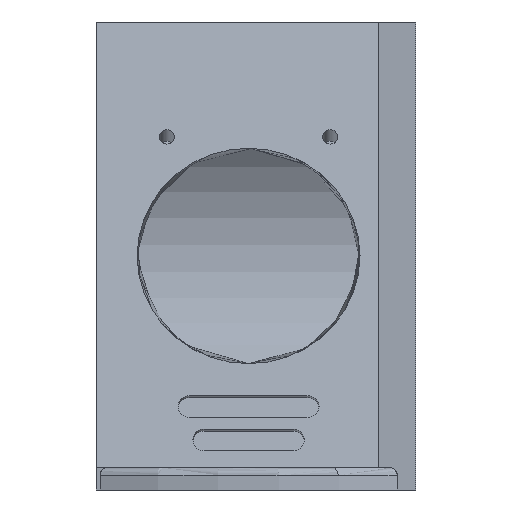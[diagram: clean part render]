
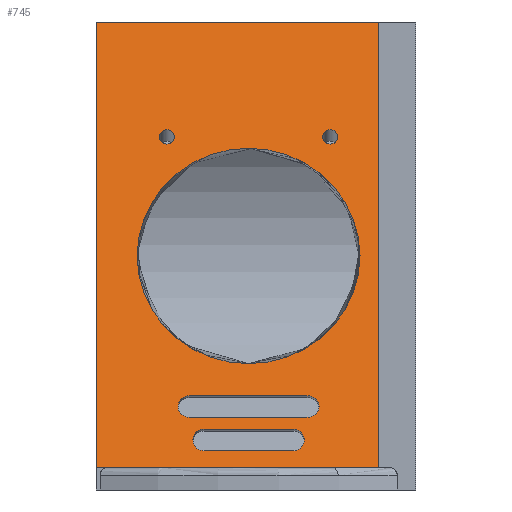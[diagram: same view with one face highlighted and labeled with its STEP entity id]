
A CAD part, front view. The second image highlights one B-rep face of the part: STEP entity #745.
In plain terms, the highlighted planar face has unit normal (0, -0.966, 0.258).
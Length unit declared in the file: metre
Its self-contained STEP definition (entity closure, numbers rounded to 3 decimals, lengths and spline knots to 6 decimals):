
#43=LINE('',#1100,#115);
#58=LINE('',#1140,#130);
#75=LINE('',#1187,#147);
#76=LINE('',#1195,#148);
#77=LINE('',#1200,#149);
#78=LINE('',#1203,#150);
#79=LINE('',#1208,#151);
#80=LINE('',#1211,#152);
#81=LINE('',#1213,#153);
#115=VECTOR('',#881,1.);
#130=VECTOR('',#906,1.);
#147=VECTOR('',#947,1.);
#148=VECTOR('',#956,1.);
#149=VECTOR('',#959,1.);
#150=VECTOR('',#962,1.);
#151=VECTOR('',#965,1.);
#152=VECTOR('',#968,1.);
#153=VECTOR('',#969,1.);
#250=ORIENTED_EDGE('',*,*,#432,.F.);
#251=ORIENTED_EDGE('',*,*,#433,.F.);
#252=ORIENTED_EDGE('',*,*,#434,.F.);
#253=ORIENTED_EDGE('',*,*,#435,.T.);
#254=ORIENTED_EDGE('',*,*,#436,.T.);
#255=ORIENTED_EDGE('',*,*,#437,.F.);
#256=ORIENTED_EDGE('',*,*,#438,.T.);
#257=ORIENTED_EDGE('',*,*,#439,.T.);
#258=ORIENTED_EDGE('',*,*,#440,.T.);
#259=ORIENTED_EDGE('',*,*,#441,.F.);
#260=ORIENTED_EDGE('',*,*,#442,.T.);
#261=ORIENTED_EDGE('',*,*,#390,.T.);
#262=ORIENTED_EDGE('',*,*,#431,.T.);
#263=ORIENTED_EDGE('',*,*,#408,.F.);
#264=ORIENTED_EDGE('',*,*,#443,.F.);
#265=ORIENTED_EDGE('',*,*,#444,.T.);
#390=EDGE_CURVE('',#491,#492,#43,.T.);
#408=EDGE_CURVE('',#505,#506,#58,.T.);
#431=EDGE_CURVE('',#492,#506,#75,.T.);
#432=EDGE_CURVE('',#519,#519,#557,.T.);
#433=EDGE_CURVE('',#520,#520,#558,.T.);
#434=EDGE_CURVE('',#521,#521,#559,.T.);
#435=EDGE_CURVE('',#522,#523,#76,.T.);
#436=EDGE_CURVE('',#523,#524,#560,.T.);
#437=EDGE_CURVE('',#525,#524,#77,.T.);
#438=EDGE_CURVE('',#525,#522,#561,.T.);
#439=EDGE_CURVE('',#526,#527,#78,.T.);
#440=EDGE_CURVE('',#527,#528,#562,.T.);
#441=EDGE_CURVE('',#529,#528,#79,.T.);
#442=EDGE_CURVE('',#529,#526,#563,.T.);
#443=EDGE_CURVE('',#530,#505,#80,.T.);
#444=EDGE_CURVE('',#530,#491,#81,.T.);
#491=VERTEX_POINT('',#1101);
#492=VERTEX_POINT('',#1102);
#505=VERTEX_POINT('',#1139);
#506=VERTEX_POINT('',#1141);
#519=VERTEX_POINT('',#1190);
#520=VERTEX_POINT('',#1192);
#521=VERTEX_POINT('',#1194);
#522=VERTEX_POINT('',#1196);
#523=VERTEX_POINT('',#1197);
#524=VERTEX_POINT('',#1199);
#525=VERTEX_POINT('',#1201);
#526=VERTEX_POINT('',#1204);
#527=VERTEX_POINT('',#1205);
#528=VERTEX_POINT('',#1207);
#529=VERTEX_POINT('',#1209);
#530=VERTEX_POINT('',#1212);
#557=CIRCLE('',#811,0.015);
#558=CIRCLE('',#812,0.001);
#559=CIRCLE('',#813,0.001);
#560=CIRCLE('',#814,0.0015);
#561=CIRCLE('',#815,0.0015);
#562=CIRCLE('',#816,0.0015);
#563=CIRCLE('',#817,0.0015);
#592=EDGE_LOOP('',(#250));
#593=EDGE_LOOP('',(#251));
#594=EDGE_LOOP('',(#252));
#595=EDGE_LOOP('',(#253,#254,#255,#256));
#596=EDGE_LOOP('',(#257,#258,#259,#260));
#597=EDGE_LOOP('',(#261,#262,#263,#264,#265));
#656=FACE_BOUND('',#592,.T.);
#657=FACE_BOUND('',#593,.T.);
#658=FACE_BOUND('',#594,.T.);
#659=FACE_BOUND('',#595,.T.);
#660=FACE_BOUND('',#596,.T.);
#661=FACE_BOUND('',#597,.T.);
#713=PLANE('',#810);
#745=ADVANCED_FACE('',(#656,#657,#658,#659,#660,#661),#713,.F.);
#810=AXIS2_PLACEMENT_3D('',#1188,#948,#949);
#811=AXIS2_PLACEMENT_3D('',#1189,#950,#951);
#812=AXIS2_PLACEMENT_3D('',#1191,#952,#953);
#813=AXIS2_PLACEMENT_3D('',#1193,#954,#955);
#814=AXIS2_PLACEMENT_3D('',#1198,#957,#958);
#815=AXIS2_PLACEMENT_3D('',#1202,#960,#961);
#816=AXIS2_PLACEMENT_3D('',#1206,#963,#964);
#817=AXIS2_PLACEMENT_3D('',#1210,#966,#967);
#881=DIRECTION('',(1.,0.,0.));
#906=DIRECTION('',(1.,0.,0.));
#947=DIRECTION('',(0.,0.258,0.966));
#948=DIRECTION('',(0.,0.966,-0.258));
#949=DIRECTION('',(0.,0.258,0.966));
#950=DIRECTION('',(0.,-0.966,0.258));
#951=DIRECTION('',(0.,-0.258,-0.966));
#952=DIRECTION('',(0.,-0.966,0.258));
#953=DIRECTION('',(0.,-0.258,-0.966));
#954=DIRECTION('',(0.,-0.966,0.258));
#955=DIRECTION('',(0.,-0.258,-0.966));
#956=DIRECTION('',(1.,0.,0.));
#957=DIRECTION('',(0.,0.966,-0.258));
#958=DIRECTION('',(0.,-0.258,-0.966));
#959=DIRECTION('',(1.,0.,0.));
#960=DIRECTION('',(0.,0.966,-0.258));
#961=DIRECTION('',(0.,-0.258,-0.966));
#962=DIRECTION('',(1.,0.,0.));
#963=DIRECTION('',(0.,0.966,-0.258));
#964=DIRECTION('',(0.,-0.258,-0.966));
#965=DIRECTION('',(1.,0.,0.));
#966=DIRECTION('',(0.,0.966,-0.258));
#967=DIRECTION('',(0.,-0.258,-0.966));
#968=DIRECTION('',(0.,0.258,0.966));
#969=DIRECTION('',(1.,0.,0.));
#1100=CARTESIAN_POINT('',(0.02,-0.105,0.003));
#1101=CARTESIAN_POINT('',(0.001,-0.105,0.003));
#1102=CARTESIAN_POINT('',(0.0375,-0.105,0.003));
#1139=CARTESIAN_POINT('',(-0.0005,-0.089,0.063));
#1140=CARTESIAN_POINT('',(-0.0125,-0.089,0.063));
#1141=CARTESIAN_POINT('',(0.0375,-0.089,0.063));
#1187=CARTESIAN_POINT('',(0.0375,-0.097,0.033));
#1188=CARTESIAN_POINT('',(-0.0125,-0.097,0.033));
#1189=CARTESIAN_POINT('',(0.02,-0.097399,0.031504));
#1190=CARTESIAN_POINT('',(0.02,-0.101264,0.01701));
#1191=CARTESIAN_POINT('',(0.009,-0.093123,0.04754));
#1192=CARTESIAN_POINT('',(0.009,-0.09338,0.046574));
#1193=CARTESIAN_POINT('',(0.031,-0.093123,0.04754));
#1194=CARTESIAN_POINT('',(0.031,-0.09338,0.046574));
#1195=CARTESIAN_POINT('',(0.02,-0.102419,0.012679));
#1196=CARTESIAN_POINT('',(0.012,-0.102419,0.012679));
#1197=CARTESIAN_POINT('',(0.028,-0.102419,0.012679));
#1198=CARTESIAN_POINT('',(0.028,-0.102806,0.011229));
#1199=CARTESIAN_POINT('',(0.028,-0.103192,0.00978));
#1200=CARTESIAN_POINT('',(0.02,-0.103192,0.00978));
#1201=CARTESIAN_POINT('',(0.012,-0.103192,0.00978));
#1202=CARTESIAN_POINT('',(0.012,-0.102806,0.011229));
#1203=CARTESIAN_POINT('',(0.02,-0.103615,0.008194));
#1204=CARTESIAN_POINT('',(0.014,-0.103615,0.008194));
#1205=CARTESIAN_POINT('',(0.026,-0.103615,0.008194));
#1206=CARTESIAN_POINT('',(0.026,-0.104001,0.006744));
#1207=CARTESIAN_POINT('',(0.026,-0.104388,0.005295));
#1208=CARTESIAN_POINT('',(0.02,-0.104388,0.005295));
#1209=CARTESIAN_POINT('',(0.014,-0.104388,0.005295));
#1210=CARTESIAN_POINT('',(0.014,-0.104001,0.006744));
#1211=CARTESIAN_POINT('',(-0.0005,-0.086577,0.072087));
#1212=CARTESIAN_POINT('',(-0.0005,-0.105,0.003));
#1213=CARTESIAN_POINT('',(-0.0005,-0.105,0.003));
